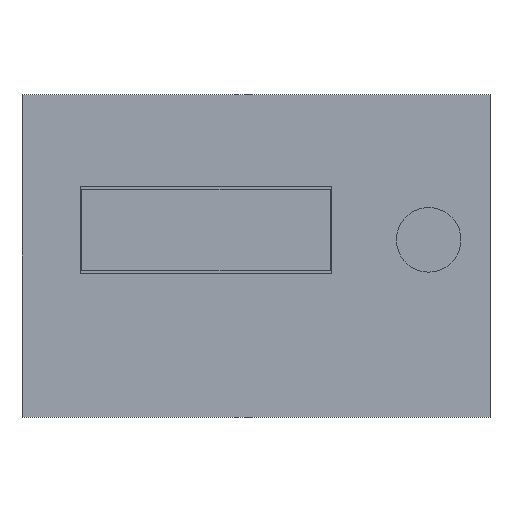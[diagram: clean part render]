
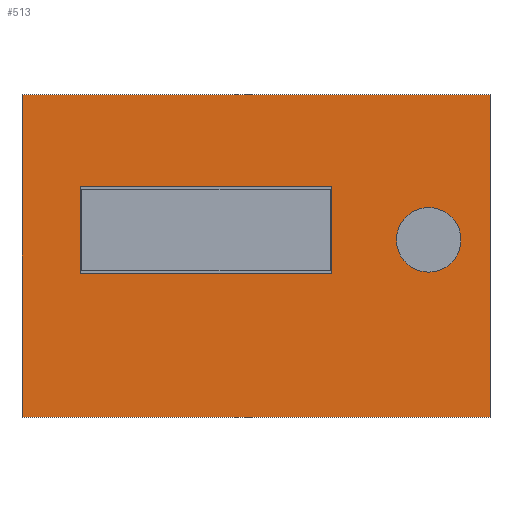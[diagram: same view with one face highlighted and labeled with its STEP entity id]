
A CAD part, front view. The second image highlights one B-rep face of the part: STEP entity #513.
In plain terms, the highlighted planar face has unit normal (0, -1, 0).
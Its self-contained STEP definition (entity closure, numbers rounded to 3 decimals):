
#283 = EDGE_CURVE('',#284,#286,#288,.T.);
#284 = VERTEX_POINT('',#285);
#285 = CARTESIAN_POINT('',(0.,0.,0.));
#286 = VERTEX_POINT('',#287);
#287 = CARTESIAN_POINT('',(0.,0.,100.));
#288 = SURFACE_CURVE('',#289,(#293,#305),.PCURVE_S1.);
#289 = LINE('',#290,#291);
#290 = CARTESIAN_POINT('',(0.,0.,0.));
#291 = VECTOR('',#292,1.);
#292 = DIRECTION('',(0.,0.,1.));
#293 = PCURVE('',#294,#299);
#294 = PLANE('',#295);
#295 = AXIS2_PLACEMENT_3D('',#296,#297,#298);
#296 = CARTESIAN_POINT('',(0.,0.,0.));
#297 = DIRECTION('',(1.,0.,0.));
#298 = DIRECTION('',(0.,0.,1.));
#299 = DEFINITIONAL_REPRESENTATION('',(#300),#304);
#300 = LINE('',#301,#302);
#301 = CARTESIAN_POINT('',(0.,0.));
#302 = VECTOR('',#303,1.);
#303 = DIRECTION('',(1.,0.));
#304 = ( GEOMETRIC_REPRESENTATION_CONTEXT(2) 
PARAMETRIC_REPRESENTATION_CONTEXT() REPRESENTATION_CONTEXT('2D SPACE',''
  ) );
#305 = PCURVE('',#306,#311);
#306 = PLANE('',#307);
#307 = AXIS2_PLACEMENT_3D('',#308,#309,#310);
#308 = CARTESIAN_POINT('',(0.,0.,0.));
#309 = DIRECTION('',(0.,1.,0.));
#310 = DIRECTION('',(0.,0.,1.));
#311 = DEFINITIONAL_REPRESENTATION('',(#312),#316);
#312 = LINE('',#313,#314);
#313 = CARTESIAN_POINT('',(0.,0.));
#314 = VECTOR('',#315,1.);
#315 = DIRECTION('',(1.,0.));
#316 = ( GEOMETRIC_REPRESENTATION_CONTEXT(2) 
PARAMETRIC_REPRESENTATION_CONTEXT() REPRESENTATION_CONTEXT('2D SPACE',''
  ) );
#334 = PLANE('',#335);
#335 = AXIS2_PLACEMENT_3D('',#336,#337,#338);
#336 = CARTESIAN_POINT('',(0.,0.,0.));
#337 = DIRECTION('',(0.,0.,1.));
#338 = DIRECTION('',(1.,0.,0.));
#388 = PLANE('',#389);
#389 = AXIS2_PLACEMENT_3D('',#390,#391,#392);
#390 = CARTESIAN_POINT('',(0.,0.,100.));
#391 = DIRECTION('',(0.,0.,1.));
#392 = DIRECTION('',(1.,0.,0.));
#513 = ADVANCED_FACE('',(#514,#589,#703),#306,.F.);
#514 = FACE_BOUND('',#515,.F.);
#515 = EDGE_LOOP('',(#516,#539,#540,#563));
#516 = ORIENTED_EDGE('',*,*,#517,.F.);
#517 = EDGE_CURVE('',#284,#518,#520,.T.);
#518 = VERTEX_POINT('',#519);
#519 = CARTESIAN_POINT('',(145.,0.,0.));
#520 = SURFACE_CURVE('',#521,(#525,#532),.PCURVE_S1.);
#521 = LINE('',#522,#523);
#522 = CARTESIAN_POINT('',(0.,0.,0.));
#523 = VECTOR('',#524,1.);
#524 = DIRECTION('',(1.,0.,0.));
#525 = PCURVE('',#306,#526);
#526 = DEFINITIONAL_REPRESENTATION('',(#527),#531);
#527 = LINE('',#528,#529);
#528 = CARTESIAN_POINT('',(0.,0.));
#529 = VECTOR('',#530,1.);
#530 = DIRECTION('',(0.,1.));
#531 = ( GEOMETRIC_REPRESENTATION_CONTEXT(2) 
PARAMETRIC_REPRESENTATION_CONTEXT() REPRESENTATION_CONTEXT('2D SPACE',''
  ) );
#532 = PCURVE('',#334,#533);
#533 = DEFINITIONAL_REPRESENTATION('',(#534),#538);
#534 = LINE('',#535,#536);
#535 = CARTESIAN_POINT('',(0.,0.));
#536 = VECTOR('',#537,1.);
#537 = DIRECTION('',(1.,0.));
#538 = ( GEOMETRIC_REPRESENTATION_CONTEXT(2) 
PARAMETRIC_REPRESENTATION_CONTEXT() REPRESENTATION_CONTEXT('2D SPACE',''
  ) );
#539 = ORIENTED_EDGE('',*,*,#283,.T.);
#540 = ORIENTED_EDGE('',*,*,#541,.T.);
#541 = EDGE_CURVE('',#286,#542,#544,.T.);
#542 = VERTEX_POINT('',#543);
#543 = CARTESIAN_POINT('',(145.,0.,100.));
#544 = SURFACE_CURVE('',#545,(#549,#556),.PCURVE_S1.);
#545 = LINE('',#546,#547);
#546 = CARTESIAN_POINT('',(0.,0.,100.));
#547 = VECTOR('',#548,1.);
#548 = DIRECTION('',(1.,0.,0.));
#549 = PCURVE('',#306,#550);
#550 = DEFINITIONAL_REPRESENTATION('',(#551),#555);
#551 = LINE('',#552,#553);
#552 = CARTESIAN_POINT('',(100.,0.));
#553 = VECTOR('',#554,1.);
#554 = DIRECTION('',(0.,1.));
#555 = ( GEOMETRIC_REPRESENTATION_CONTEXT(2) 
PARAMETRIC_REPRESENTATION_CONTEXT() REPRESENTATION_CONTEXT('2D SPACE',''
  ) );
#556 = PCURVE('',#388,#557);
#557 = DEFINITIONAL_REPRESENTATION('',(#558),#562);
#558 = LINE('',#559,#560);
#559 = CARTESIAN_POINT('',(0.,0.));
#560 = VECTOR('',#561,1.);
#561 = DIRECTION('',(1.,0.));
#562 = ( GEOMETRIC_REPRESENTATION_CONTEXT(2) 
PARAMETRIC_REPRESENTATION_CONTEXT() REPRESENTATION_CONTEXT('2D SPACE',''
  ) );
#563 = ORIENTED_EDGE('',*,*,#564,.F.);
#564 = EDGE_CURVE('',#518,#542,#565,.T.);
#565 = SURFACE_CURVE('',#566,(#570,#577),.PCURVE_S1.);
#566 = LINE('',#567,#568);
#567 = CARTESIAN_POINT('',(145.,0.,0.));
#568 = VECTOR('',#569,1.);
#569 = DIRECTION('',(0.,0.,1.));
#570 = PCURVE('',#306,#571);
#571 = DEFINITIONAL_REPRESENTATION('',(#572),#576);
#572 = LINE('',#573,#574);
#573 = CARTESIAN_POINT('',(0.,145.));
#574 = VECTOR('',#575,1.);
#575 = DIRECTION('',(1.,0.));
#576 = ( GEOMETRIC_REPRESENTATION_CONTEXT(2) 
PARAMETRIC_REPRESENTATION_CONTEXT() REPRESENTATION_CONTEXT('2D SPACE',''
  ) );
#577 = PCURVE('',#578,#583);
#578 = PLANE('',#579);
#579 = AXIS2_PLACEMENT_3D('',#580,#581,#582);
#580 = CARTESIAN_POINT('',(145.,0.,0.));
#581 = DIRECTION('',(1.,0.,0.));
#582 = DIRECTION('',(0.,0.,1.));
#583 = DEFINITIONAL_REPRESENTATION('',(#584),#588);
#584 = LINE('',#585,#586);
#585 = CARTESIAN_POINT('',(0.,0.));
#586 = VECTOR('',#587,1.);
#587 = DIRECTION('',(1.,0.));
#588 = ( GEOMETRIC_REPRESENTATION_CONTEXT(2) 
PARAMETRIC_REPRESENTATION_CONTEXT() REPRESENTATION_CONTEXT('2D SPACE',''
  ) );
#589 = FACE_BOUND('',#590,.F.);
#590 = EDGE_LOOP('',(#591,#621,#649,#677));
#591 = ORIENTED_EDGE('',*,*,#592,.F.);
#592 = EDGE_CURVE('',#593,#595,#597,.T.);
#593 = VERTEX_POINT('',#594);
#594 = CARTESIAN_POINT('',(18.,0.,71.5));
#595 = VERTEX_POINT('',#596);
#596 = CARTESIAN_POINT('',(96.,0.,71.5));
#597 = SURFACE_CURVE('',#598,(#602,#609),.PCURVE_S1.);
#598 = LINE('',#599,#600);
#599 = CARTESIAN_POINT('',(9.,0.,71.5));
#600 = VECTOR('',#601,1.);
#601 = DIRECTION('',(1.,0.,0.));
#602 = PCURVE('',#306,#603);
#603 = DEFINITIONAL_REPRESENTATION('',(#604),#608);
#604 = LINE('',#605,#606);
#605 = CARTESIAN_POINT('',(71.5,9.));
#606 = VECTOR('',#607,1.);
#607 = DIRECTION('',(0.,1.));
#608 = ( GEOMETRIC_REPRESENTATION_CONTEXT(2) 
PARAMETRIC_REPRESENTATION_CONTEXT() REPRESENTATION_CONTEXT('2D SPACE',''
  ) );
#609 = PCURVE('',#610,#615);
#610 = PLANE('',#611);
#611 = AXIS2_PLACEMENT_3D('',#612,#613,#614);
#612 = CARTESIAN_POINT('',(18.,-0.1,71.5));
#613 = DIRECTION('',(0.,0.,1.));
#614 = DIRECTION('',(1.,0.,0.));
#615 = DEFINITIONAL_REPRESENTATION('',(#616),#620);
#616 = LINE('',#617,#618);
#617 = CARTESIAN_POINT('',(-9.,0.1));
#618 = VECTOR('',#619,1.);
#619 = DIRECTION('',(1.,0.));
#620 = ( GEOMETRIC_REPRESENTATION_CONTEXT(2) 
PARAMETRIC_REPRESENTATION_CONTEXT() REPRESENTATION_CONTEXT('2D SPACE',''
  ) );
#621 = ORIENTED_EDGE('',*,*,#622,.T.);
#622 = EDGE_CURVE('',#593,#623,#625,.T.);
#623 = VERTEX_POINT('',#624);
#624 = CARTESIAN_POINT('',(18.,0.,44.5));
#625 = SURFACE_CURVE('',#626,(#630,#637),.PCURVE_S1.);
#626 = LINE('',#627,#628);
#627 = CARTESIAN_POINT('',(18.,0.,22.25));
#628 = VECTOR('',#629,1.);
#629 = DIRECTION('',(0.,0.,-1.));
#630 = PCURVE('',#306,#631);
#631 = DEFINITIONAL_REPRESENTATION('',(#632),#636);
#632 = LINE('',#633,#634);
#633 = CARTESIAN_POINT('',(22.25,18.));
#634 = VECTOR('',#635,1.);
#635 = DIRECTION('',(-1.,0.));
#636 = ( GEOMETRIC_REPRESENTATION_CONTEXT(2) 
PARAMETRIC_REPRESENTATION_CONTEXT() REPRESENTATION_CONTEXT('2D SPACE',''
  ) );
#637 = PCURVE('',#638,#643);
#638 = PLANE('',#639);
#639 = AXIS2_PLACEMENT_3D('',#640,#641,#642);
#640 = CARTESIAN_POINT('',(18.,-0.1,44.5));
#641 = DIRECTION('',(1.,0.,0.));
#642 = DIRECTION('',(0.,0.,1.));
#643 = DEFINITIONAL_REPRESENTATION('',(#644),#648);
#644 = LINE('',#645,#646);
#645 = CARTESIAN_POINT('',(-22.25,-0.1));
#646 = VECTOR('',#647,1.);
#647 = DIRECTION('',(-1.,0.));
#648 = ( GEOMETRIC_REPRESENTATION_CONTEXT(2) 
PARAMETRIC_REPRESENTATION_CONTEXT() REPRESENTATION_CONTEXT('2D SPACE',''
  ) );
#649 = ORIENTED_EDGE('',*,*,#650,.T.);
#650 = EDGE_CURVE('',#623,#651,#653,.T.);
#651 = VERTEX_POINT('',#652);
#652 = CARTESIAN_POINT('',(96.,0.,44.5));
#653 = SURFACE_CURVE('',#654,(#658,#665),.PCURVE_S1.);
#654 = LINE('',#655,#656);
#655 = CARTESIAN_POINT('',(9.,0.,44.5));
#656 = VECTOR('',#657,1.);
#657 = DIRECTION('',(1.,0.,0.));
#658 = PCURVE('',#306,#659);
#659 = DEFINITIONAL_REPRESENTATION('',(#660),#664);
#660 = LINE('',#661,#662);
#661 = CARTESIAN_POINT('',(44.5,9.));
#662 = VECTOR('',#663,1.);
#663 = DIRECTION('',(0.,1.));
#664 = ( GEOMETRIC_REPRESENTATION_CONTEXT(2) 
PARAMETRIC_REPRESENTATION_CONTEXT() REPRESENTATION_CONTEXT('2D SPACE',''
  ) );
#665 = PCURVE('',#666,#671);
#666 = PLANE('',#667);
#667 = AXIS2_PLACEMENT_3D('',#668,#669,#670);
#668 = CARTESIAN_POINT('',(18.,-0.1,44.5));
#669 = DIRECTION('',(0.,0.,1.));
#670 = DIRECTION('',(1.,0.,0.));
#671 = DEFINITIONAL_REPRESENTATION('',(#672),#676);
#672 = LINE('',#673,#674);
#673 = CARTESIAN_POINT('',(-9.,0.1));
#674 = VECTOR('',#675,1.);
#675 = DIRECTION('',(1.,0.));
#676 = ( GEOMETRIC_REPRESENTATION_CONTEXT(2) 
PARAMETRIC_REPRESENTATION_CONTEXT() REPRESENTATION_CONTEXT('2D SPACE',''
  ) );
#677 = ORIENTED_EDGE('',*,*,#678,.F.);
#678 = EDGE_CURVE('',#595,#651,#679,.T.);
#679 = SURFACE_CURVE('',#680,(#684,#691),.PCURVE_S1.);
#680 = LINE('',#681,#682);
#681 = CARTESIAN_POINT('',(96.,0.,22.25));
#682 = VECTOR('',#683,1.);
#683 = DIRECTION('',(0.,0.,-1.));
#684 = PCURVE('',#306,#685);
#685 = DEFINITIONAL_REPRESENTATION('',(#686),#690);
#686 = LINE('',#687,#688);
#687 = CARTESIAN_POINT('',(22.25,96.));
#688 = VECTOR('',#689,1.);
#689 = DIRECTION('',(-1.,0.));
#690 = ( GEOMETRIC_REPRESENTATION_CONTEXT(2) 
PARAMETRIC_REPRESENTATION_CONTEXT() REPRESENTATION_CONTEXT('2D SPACE',''
  ) );
#691 = PCURVE('',#692,#697);
#692 = PLANE('',#693);
#693 = AXIS2_PLACEMENT_3D('',#694,#695,#696);
#694 = CARTESIAN_POINT('',(96.,-0.1,44.5));
#695 = DIRECTION('',(1.,0.,0.));
#696 = DIRECTION('',(0.,0.,1.));
#697 = DEFINITIONAL_REPRESENTATION('',(#698),#702);
#698 = LINE('',#699,#700);
#699 = CARTESIAN_POINT('',(-22.25,-0.1));
#700 = VECTOR('',#701,1.);
#701 = DIRECTION('',(-1.,0.));
#702 = ( GEOMETRIC_REPRESENTATION_CONTEXT(2) 
PARAMETRIC_REPRESENTATION_CONTEXT() REPRESENTATION_CONTEXT('2D SPACE',''
  ) );
#703 = FACE_BOUND('',#704,.F.);
#704 = EDGE_LOOP('',(#705));
#705 = ORIENTED_EDGE('',*,*,#706,.F.);
#706 = EDGE_CURVE('',#707,#707,#709,.T.);
#707 = VERTEX_POINT('',#708);
#708 = CARTESIAN_POINT('',(126.,0.,58.6));
#709 = SURFACE_CURVE('',#710,(#715,#722),.PCURVE_S1.);
#710 = CIRCLE('',#711,3.6);
#711 = AXIS2_PLACEMENT_3D('',#712,#713,#714);
#712 = CARTESIAN_POINT('',(126.,0.,55.));
#713 = DIRECTION('',(0.,1.,0.));
#714 = DIRECTION('',(0.,-0.,1.));
#715 = PCURVE('',#306,#716);
#716 = DEFINITIONAL_REPRESENTATION('',(#717),#721);
#717 = CIRCLE('',#718,3.6);
#718 = AXIS2_PLACEMENT_2D('',#719,#720);
#719 = CARTESIAN_POINT('',(55.,126.));
#720 = DIRECTION('',(1.,0.));
#721 = ( GEOMETRIC_REPRESENTATION_CONTEXT(2) 
PARAMETRIC_REPRESENTATION_CONTEXT() REPRESENTATION_CONTEXT('2D SPACE',''
  ) );
#722 = PCURVE('',#723,#728);
#723 = CYLINDRICAL_SURFACE('',#724,3.6);
#724 = AXIS2_PLACEMENT_3D('',#725,#726,#727);
#725 = CARTESIAN_POINT('',(126.,-0.1,55.));
#726 = DIRECTION('',(0.,1.,0.));
#727 = DIRECTION('',(0.,-0.,1.));
#728 = DEFINITIONAL_REPRESENTATION('',(#729),#733);
#729 = LINE('',#730,#731);
#730 = CARTESIAN_POINT('',(0.,0.1));
#731 = VECTOR('',#732,1.);
#732 = DIRECTION('',(1.,0.));
#733 = ( GEOMETRIC_REPRESENTATION_CONTEXT(2) 
PARAMETRIC_REPRESENTATION_CONTEXT() REPRESENTATION_CONTEXT('2D SPACE',''
  ) );
